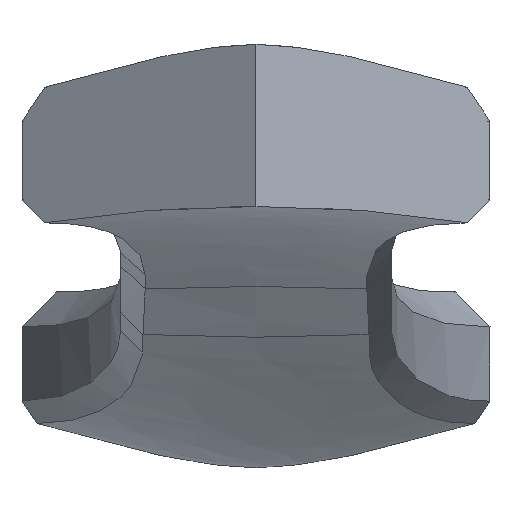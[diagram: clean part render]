
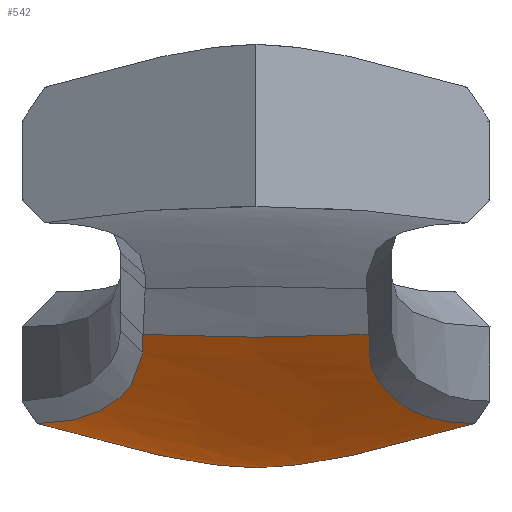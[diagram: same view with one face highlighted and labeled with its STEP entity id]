
A CAD part, left-side view. The second image highlights one B-rep face of the part: STEP entity #542.
In plain terms, the highlighted free-form (B-spline) face has degree [3, 3] with [4, 4] control points.
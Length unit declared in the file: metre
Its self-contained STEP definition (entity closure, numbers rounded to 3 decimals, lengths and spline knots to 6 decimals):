
#122=ORIENTED_EDGE('',*,*,#285,.T.);
#123=ORIENTED_EDGE('',*,*,#286,.T.);
#124=ORIENTED_EDGE('',*,*,#287,.T.);
#125=ORIENTED_EDGE('',*,*,#288,.F.);
#126=ORIENTED_EDGE('',*,*,#289,.T.);
#127=ORIENTED_EDGE('',*,*,#290,.T.);
#128=ORIENTED_EDGE('',*,*,#291,.T.);
#285=EDGE_CURVE('',#364,#365,#416,.T.);
#286=EDGE_CURVE('',#365,#366,#417,.T.);
#287=EDGE_CURVE('',#366,#367,#418,.T.);
#288=EDGE_CURVE('',#368,#367,#419,.T.);
#289=EDGE_CURVE('',#368,#369,#420,.T.);
#290=EDGE_CURVE('',#369,#370,#421,.T.);
#291=EDGE_CURVE('',#370,#364,#422,.T.);
#364=VERTEX_POINT('',#1025);
#365=VERTEX_POINT('',#1026);
#366=VERTEX_POINT('',#1031);
#367=VERTEX_POINT('',#1053);
#368=VERTEX_POINT('',#1058);
#369=VERTEX_POINT('',#1063);
#370=VERTEX_POINT('',#1085);
#416=B_SPLINE_CURVE_WITH_KNOTS('',3,(#1021,#1022,#1023,#1024),
 .UNSPECIFIED.,.F.,.F.,(4,4),(0.081255,0.918806),
 .UNSPECIFIED.);
#417=B_SPLINE_CURVE_WITH_KNOTS('',3,(#1027,#1028,#1029,#1030),
 .UNSPECIFIED.,.F.,.F.,(4,4),(0.,1.),.UNSPECIFIED.);
#418=B_SPLINE_CURVE_WITH_KNOTS('',3,(#1032,#1033,#1034,#1035,#1036,#1037,
#1038,#1039,#1040,#1041,#1042,#1043,#1044,#1045,#1046,#1047,#1048,#1049,
#1050,#1051,#1052),.UNSPECIFIED.,.F.,.F.,(4,1,1,1,1,1,1,1,1,1,1,1,1,1,1,
1,1,1,4),(0.,0.125,0.1875,0.21875,0.25,0.28125,0.3125,0.375,0.4375,0.46875,
0.5,0.53125,0.5625,0.625,0.6875,0.75,0.8125,0.875,1.),.UNSPECIFIED.);
#419=B_SPLINE_CURVE_WITH_KNOTS('',3,(#1054,#1055,#1056,#1057),
 .UNSPECIFIED.,.F.,.F.,(4,4),(0.,1.),.PIECEWISE_BEZIER_KNOTS.);
#420=B_SPLINE_CURVE_WITH_KNOTS('',3,(#1059,#1060,#1061,#1062),
 .UNSPECIFIED.,.F.,.F.,(4,4),(0.,1.),.PIECEWISE_BEZIER_KNOTS.);
#421=B_SPLINE_CURVE_WITH_KNOTS('',3,(#1064,#1065,#1066,#1067,#1068,#1069,
#1070,#1071,#1072,#1073,#1074,#1075,#1076,#1077,#1078,#1079,#1080,#1081,
#1082,#1083,#1084),.UNSPECIFIED.,.F.,.F.,(4,1,1,1,1,1,1,1,1,1,1,1,1,1,1,
1,1,1,4),(0.,0.125,0.1875,0.25,0.3125,0.375,0.4375,0.46875,0.5,0.53125,
0.5625,0.625,0.6875,0.71875,0.75,0.78125,0.8125,0.875,1.),.UNSPECIFIED.);
#422=B_SPLINE_CURVE_WITH_KNOTS('',3,(#1086,#1087,#1088,#1089),
 .UNSPECIFIED.,.F.,.F.,(4,4),(0.,1.),.UNSPECIFIED.);
#466=EDGE_LOOP('',(#122,#123,#124,#125,#126,#127,#128));
#502=FACE_BOUND('',#466,.T.);
#532=(
BOUNDED_SURFACE()
B_SPLINE_SURFACE(3,3,((#1005,#1006,#1007,#1008),(#1009,#1010,#1011,#1012),
(#1013,#1014,#1015,#1016),(#1017,#1018,#1019,#1020)),
 .SURF_OF_REVOLUTION.,.F.,.F.,.F.)
B_SPLINE_SURFACE_WITH_KNOTS((4,4),(4,4),(0.,0.869804),(0.,1.),
 .PIECEWISE_BEZIER_KNOTS.)
GEOMETRIC_REPRESENTATION_ITEM()
RATIONAL_B_SPLINE_SURFACE(((1.,0.663,0.663,1.),
(1.,0.663,0.663,1.),(1.,0.663,0.663,
1.),(1.,0.663,0.663,1.)))
REPRESENTATION_ITEM('')
SURFACE()
);
#542=ADVANCED_FACE('',(#502),#532,.T.);
#1005=CARTESIAN_POINT('',(0.050048,0.,-0.00761));
#1006=CARTESIAN_POINT('',(0.050048,0.,-0.00761));
#1007=CARTESIAN_POINT('',(0.050048,0.,-0.00761));
#1008=CARTESIAN_POINT('',(0.050048,0.,-0.00761));
#1009=CARTESIAN_POINT('',(0.047721,-0.004031,-0.007631));
#1010=CARTESIAN_POINT('',(0.044198,-0.001997,-0.007662));
#1011=CARTESIAN_POINT('',(0.044224,0.00207,-0.007662));
#1012=CARTESIAN_POINT('',(0.047772,0.00406,-0.007631));
#1013=CARTESIAN_POINT('',(0.043228,-0.011769,-0.004754));
#1014=CARTESIAN_POINT('',(0.032943,-0.005831,-0.004845));
#1015=CARTESIAN_POINT('',(0.033018,0.006045,-0.004845));
#1016=CARTESIAN_POINT('',(0.043376,0.011853,-0.004753));
#1017=CARTESIAN_POINT('',(0.03894,-0.019162,-0.002551));
#1018=CARTESIAN_POINT('',(0.022194,-0.009494,-0.002699));
#1019=CARTESIAN_POINT('',(0.022316,0.009842,-0.002698));
#1020=CARTESIAN_POINT('',(0.039181,0.019299,-0.002549));
#1021=CARTESIAN_POINT('',(0.028432,-0.004182,-0.002684));
#1022=CARTESIAN_POINT('',(0.028401,-0.001381,-0.002817));
#1023=CARTESIAN_POINT('',(0.028401,0.001382,-0.002817));
#1024=CARTESIAN_POINT('',(0.028432,0.004183,-0.002684));
#1025=CARTESIAN_POINT('',(0.028432,-0.004182,-0.002684));
#1026=CARTESIAN_POINT('',(0.028432,0.004183,-0.002684));
#1027=CARTESIAN_POINT('',(0.028432,0.004182,-0.002684));
#1028=CARTESIAN_POINT('',(0.029379,0.004185,-0.00292));
#1029=CARTESIAN_POINT('',(0.03028,0.004187,-0.00315));
#1030=CARTESIAN_POINT('',(0.031128,0.00419,-0.003369));
#1031=CARTESIAN_POINT('',(0.031128,0.00419,-0.003369));
#1032=CARTESIAN_POINT('',(0.031128,0.00419,-0.003369));
#1033=CARTESIAN_POINT('',(0.031794,0.004192,-0.00354));
#1034=CARTESIAN_POINT('',(0.032751,0.004232,-0.003786));
#1035=CARTESIAN_POINT('',(0.03378,0.004322,-0.004048));
#1036=CARTESIAN_POINT('',(0.034359,0.004387,-0.004193));
#1037=CARTESIAN_POINT('',(0.034744,0.004435,-0.004289));
#1038=CARTESIAN_POINT('',(0.035267,0.00451,-0.004418));
#1039=CARTESIAN_POINT('',(0.035894,0.004613,-0.00457));
#1040=CARTESIAN_POINT('',(0.036668,0.00476,-0.004754));
#1041=CARTESIAN_POINT('',(0.037389,0.004921,-0.004918));
#1042=CARTESIAN_POINT('',(0.03796,0.005063,-0.005044));
#1043=CARTESIAN_POINT('',(0.038337,0.005162,-0.005125));
#1044=CARTESIAN_POINT('',(0.038858,0.005308,-0.005234));
#1045=CARTESIAN_POINT('',(0.03948,0.005495,-0.005357));
#1046=CARTESIAN_POINT('',(0.04024,0.005745,-0.005499));
#1047=CARTESIAN_POINT('',(0.04111,0.006065,-0.005642));
#1048=CARTESIAN_POINT('',(0.04191,0.006386,-0.005757));
#1049=CARTESIAN_POINT('',(0.042823,0.006786,-0.005863));
#1050=CARTESIAN_POINT('',(0.043942,0.007322,-0.005956));
#1051=CARTESIAN_POINT('',(0.044799,0.007781,-0.005984));
#1052=CARTESIAN_POINT('',(0.045356,0.008102,-0.005979));
#1053=CARTESIAN_POINT('',(0.045356,0.008102,-0.005979));
#1054=CARTESIAN_POINT('',(0.050048,0.,-0.00761));
#1055=CARTESIAN_POINT('',(0.047372,0.004634,-0.007634));
#1056=CARTESIAN_POINT('',(0.041834,0.014168,-0.003828));
#1057=CARTESIAN_POINT('',(0.037036,0.022445,-0.001619));
#1058=CARTESIAN_POINT('',(0.050048,0.,-0.00761));
#1059=CARTESIAN_POINT('',(0.050048,0.,-0.00761));
#1060=CARTESIAN_POINT('',(0.047372,-0.004634,-0.007634));
#1061=CARTESIAN_POINT('',(0.041834,-0.014168,-0.003828));
#1062=CARTESIAN_POINT('',(0.037036,-0.022445,-0.001619));
#1063=CARTESIAN_POINT('',(0.045356,-0.008102,-0.005979));
#1064=CARTESIAN_POINT('',(0.045356,-0.008102,-0.005979));
#1065=CARTESIAN_POINT('',(0.044799,-0.007781,-0.005984));
#1066=CARTESIAN_POINT('',(0.043941,-0.007322,-0.005956));
#1067=CARTESIAN_POINT('',(0.042824,-0.006787,-0.005863));
#1068=CARTESIAN_POINT('',(0.041909,-0.006386,-0.005757));
#1069=CARTESIAN_POINT('',(0.04111,-0.006066,-0.005643));
#1070=CARTESIAN_POINT('',(0.04024,-0.005746,-0.005499));
#1071=CARTESIAN_POINT('',(0.03948,-0.005495,-0.005358));
#1072=CARTESIAN_POINT('',(0.038859,-0.005308,-0.005234));
#1073=CARTESIAN_POINT('',(0.038337,-0.005161,-0.005125));
#1074=CARTESIAN_POINT('',(0.03796,-0.005063,-0.005044));
#1075=CARTESIAN_POINT('',(0.03739,-0.004921,-0.004919));
#1076=CARTESIAN_POINT('',(0.036669,-0.00476,-0.004754));
#1077=CARTESIAN_POINT('',(0.035895,-0.004613,-0.00457));
#1078=CARTESIAN_POINT('',(0.035267,-0.00451,-0.004418));
#1079=CARTESIAN_POINT('',(0.034744,-0.004435,-0.004289));
#1080=CARTESIAN_POINT('',(0.034359,-0.004387,-0.004193));
#1081=CARTESIAN_POINT('',(0.03378,-0.004322,-0.004048));
#1082=CARTESIAN_POINT('',(0.032751,-0.004232,-0.003787));
#1083=CARTESIAN_POINT('',(0.031794,-0.004192,-0.00354));
#1084=CARTESIAN_POINT('',(0.031128,-0.00419,-0.003369));
#1085=CARTESIAN_POINT('',(0.031128,-0.00419,-0.003369));
#1086=CARTESIAN_POINT('',(0.031128,-0.00419,-0.003369));
#1087=CARTESIAN_POINT('',(0.03028,-0.004187,-0.00315));
#1088=CARTESIAN_POINT('',(0.029379,-0.004185,-0.00292));
#1089=CARTESIAN_POINT('',(0.028432,-0.004182,-0.002684));
